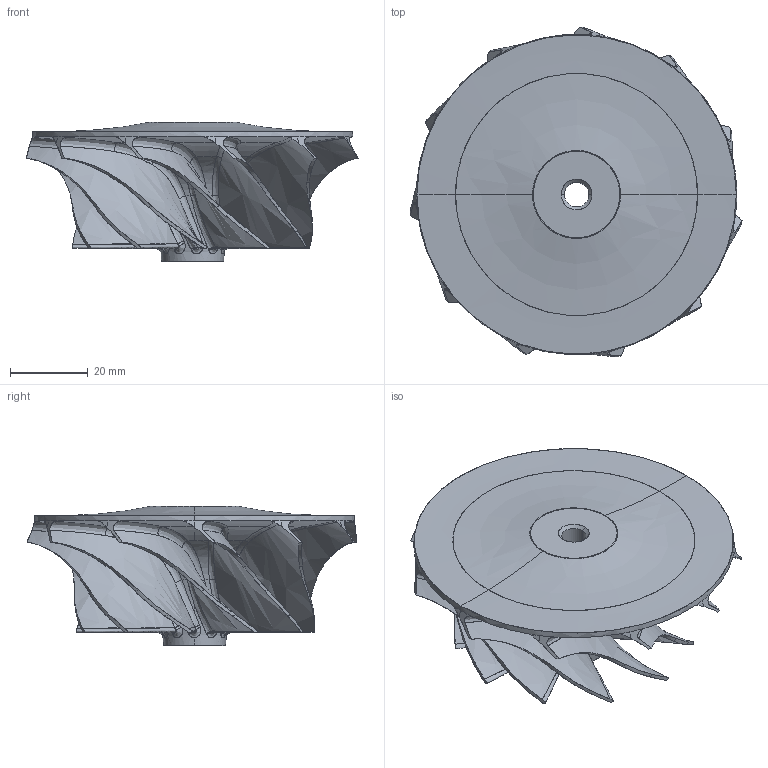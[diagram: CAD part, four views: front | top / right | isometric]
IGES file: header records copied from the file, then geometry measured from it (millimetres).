
Start section: SolidWorks IGES file using analytic representation for surfaces
Global section: file name: C:\Users\nbeckrich\Desktop\marketing\from cad dept\Marketing Job\Marketing Job_V1\Marketing Job_V1\impeller.IGS; native system: SolidWorks 2010; preprocessor: SolidWorks 2010; author: nbeckrich; date: 130524.131856; units: millimetre
Bounding box: 85.2 x 84.66 x 35.77 mm (x, y, z)
Surface area: 28617.6 mm2 (no closed solid volume)
Topology: 0 solids, 0 shells, 277 faces, 4649 edges, 4640 vertices
Faces by surface type: bspline 247, revolution 30
